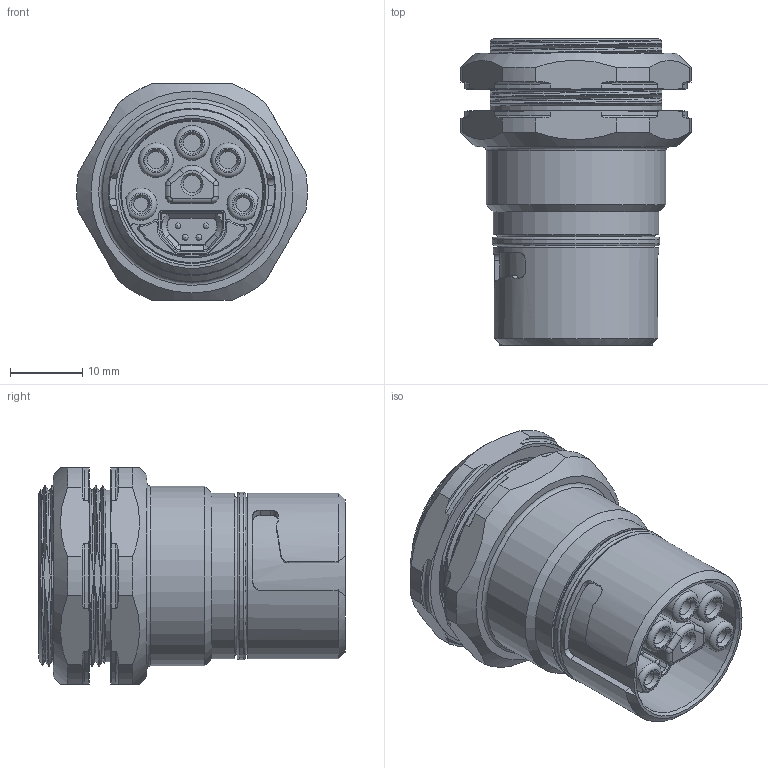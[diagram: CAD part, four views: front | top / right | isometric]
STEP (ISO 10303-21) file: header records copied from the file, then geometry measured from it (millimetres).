
FILE_DESCRIPTION(/* description */ (''),/* implementation_level */ '2;1');
FILE_NAME(/* name */ 'X:\0-inventor\0-3d-Teile\PC-Compo\solids\EtherCAT-P_Stecker_Buchsen\0-Ausgabe\B23 ENP und ECP_T0509\B23_Flansche\ENP\Vorderwandflansch lang\6pol\ENP_S1_6pol_Pbu_Step.stp',/* time_stamp */ '2019-05-23T09:49:12+02:00',/* author */ ('ChristianKreuzer'),/* organization */ ('Design-AG'),/* preprocessor_version */ 'ST-DEVELOPER v17.2',/* originating_system */ 'Autodesk Inventor 2019',/* authorisation */ '');
FILE_SCHEMA (('AUTOMOTIVE_DESIGN { 1 0 10303 214 3 1 1 }'));
Length unit declared in the file: millimetre
Products named in the file (1): ENP_S1_6pol_Pbu_Step
Bounding box: 31.95 x 42.5 x 30 mm (x, y, z)
Volume: 17594.8 mm3; surface area: 13859.7 mm2
Topology: 12 solids, 12 shells, 458 faces, 1231 edges, 813 vertices
Faces by surface type: plane 175, cylinder 142, cone 61, bspline 45, torus 31, sphere 4
Full cylindrical faces by diameter (mm): 0.8 x4, 2 x2, 2.4 x4, 2.7 x2, 3.6 x4, 4.8 x3, 19.6 x1, 19.85 x1, 21.7 x2, 23 x2, 23.2 x1, 23.8 x1, 24.5 x1, 24.6 x1, 24.9 x1, 25 x1, 28.1 x1, 28.6 x1
Entity records: 25871 total; most frequent: CARTESIAN_POINT 14194, ORIENTED_EDGE 2454, DIRECTION 2198, EDGE_CURVE 1227, AXIS2_PLACEMENT_3D 869, VERTEX_POINT 813, EDGE_LOOP 486, STYLED_ITEM 470
